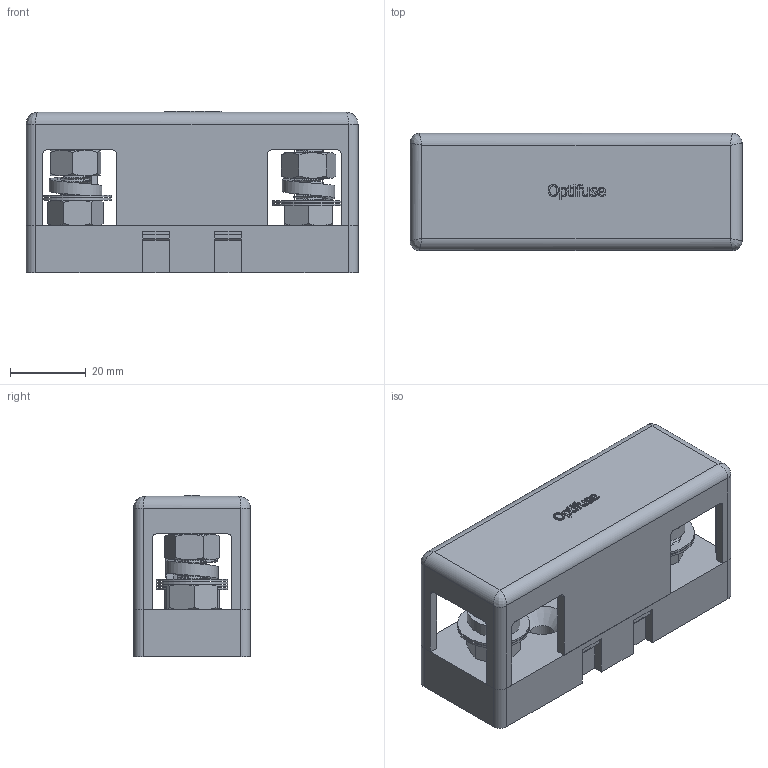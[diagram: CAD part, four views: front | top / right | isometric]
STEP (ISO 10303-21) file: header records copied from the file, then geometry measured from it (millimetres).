
FILE_DESCRIPTION(/* description */ (''),/* implementation_level */ '2;1');
FILE_NAME(/* name */ 'C:\Users\Hani\Desktop\work\BLC-09-GT\BLC-09-GTA.stp',/* time_stamp */ '2021-07-06T15:15:31-07:00',/* author */ ('Hani'),/* organization */ (''),/* preprocessor_version */ 'ST-DEVELOPER v17',/* originating_system */ 'Autodesk Inventor 2019',/* authorisation */ '');
FILE_SCHEMA (('AUTOMOTIVE_DESIGN { 1 0 10303 214 3 1 1 }'));
Length unit declared in the file: inch
Products named in the file (7): BLC-08-GTA; BLC-08-GT; 5_16-24 HEX HEAD SCREW; FLAT WASHER; LOCK WASHER; 5_16-24 HEX NUT; BLC-08-GTC
Assembly tree (14 placements, depth 2):
  BLC-08-GTA
    BLC-08-GT
    5_16-24 HEX HEAD SCREW  x2
    5_16-24 HEX NUT  x4
    FLAT WASHER  x4
    LOCK WASHER  x2
    BLC-08-GTC
Bounding box: 87.88 x 30.99 x 42.7 mm (x, y, z)
Volume: 54150.4 mm3; surface area: 32975.2 mm2
Topology: 14 solids, 14 shells, 840 faces, 2248 edges, 1464 vertices
Faces by surface type: plane 338, cylinder 260, bspline 160, cone 82
Full cylindrical faces by diameter (mm): 1.905 x8, 5.359 x1, 6.096 x2, 6.563 x72, 7.938 x78, 8.255 x4, 8.382 x1, 19.05 x4
Entity records: 26634 total; most frequent: CARTESIAN_POINT 12566, ORIENTED_EDGE 3230, DIRECTION 2273, EDGE_CURVE 1615, VERTEX_POINT 1061, LINE 955, VECTOR 955, AXIS2_PLACEMENT_3D 659
